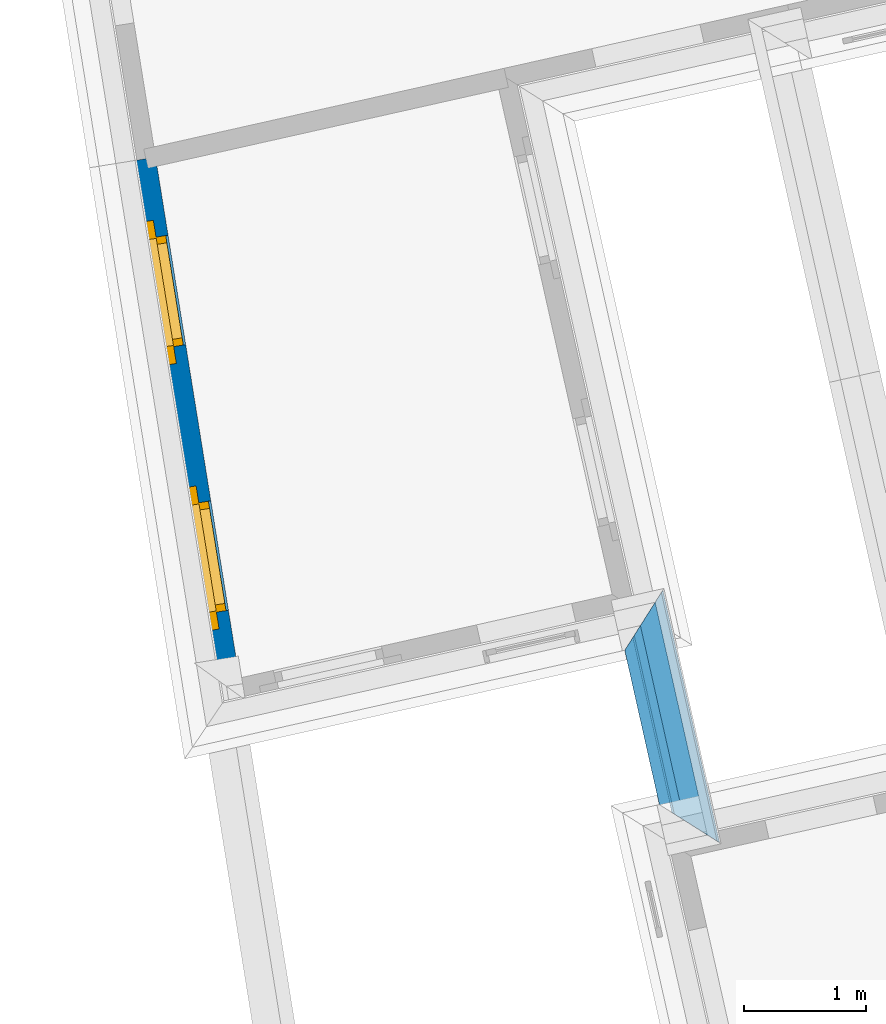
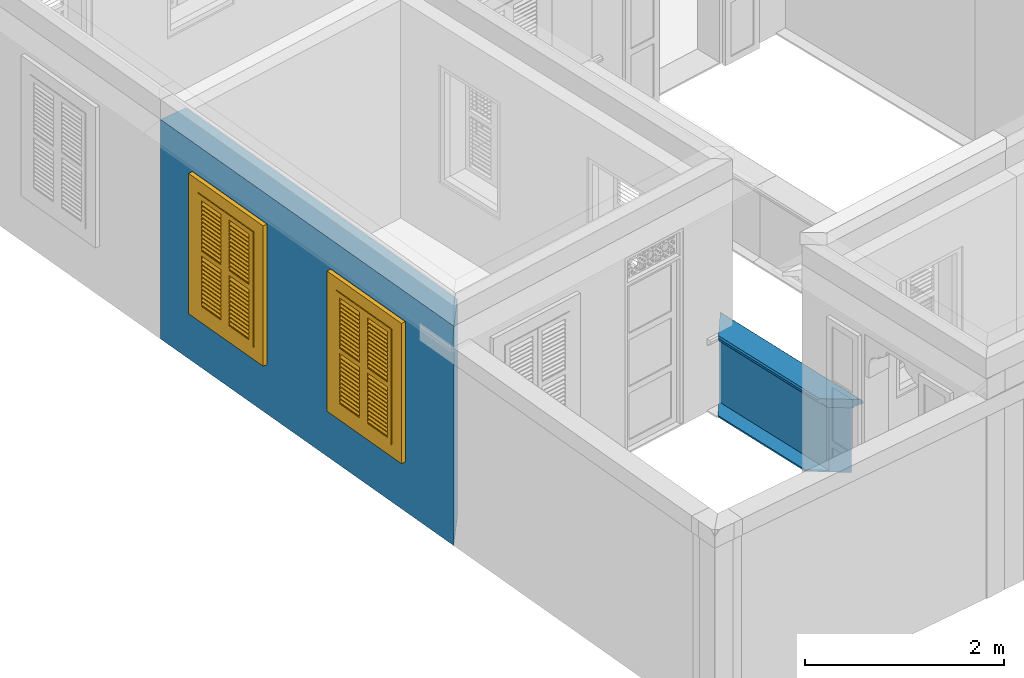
# One storey, part 4 of 15: 3 walls, 2 windows, 2 openings.
"""IFC4 building model written with IfcOpenShell, lengths in metres."""

from ifc_helpers import new_model, si_unit, frame, origin, origin_with_axes, place, context, subcontext, project, spatial, polyline, outline, extrude, clip, halfspace, faceted_brep, source, transform, mapped, material, layer, layer_set, layer_usage, material_profile, profile_set, profile_usage, type_object, type_shapes, element, fill, save


model = new_model("IFC4")

# Units and contexts
model_context = context("Model", 3, world=origin_with_axes())
body_context = subcontext(model_context, "Body", "Model", "MODEL_VIEW")
ifc_project = project(units=[si_unit("PLANEANGLEUNIT", "RADIAN"), si_unit("MASSUNIT", "GRAM", prefix="KILO"), si_unit("FORCEUNIT", "NEWTON", prefix="KILO"), si_unit("LENGTHUNIT", "METRE"), si_unit("AREAUNIT", "SQUARE_METRE"), si_unit("VOLUMEUNIT", "CUBIC_METRE")], contexts=[model_context, model_context])

# Site, building, storey
site_placement = place(None, origin_with_axes())
site = spatial("IfcSite", under=ifc_project, at=site_placement, Name="Site plot-10", CompositionType="ELEMENT")
building_placement = place(None, origin_with_axes())
building = spatial("IfcBuilding", under=site, at=building_placement, Name="Building plot-10", CompositionType="ELEMENT")
storey_placement = place(None, frame((0.0, 0.0, 2.7), z_axis=(0.0, 0.0, 1.0), x_axis=(1.0, 0.0, 0.0)))
storey = spatial("IfcBuildingStorey", under=building, at=storey_placement, Name="plot-10 1", CompositionType="ELEMENT", Elevation=2.7)

# Wall, openings, windows
ifc_material = material(Name="Masonry")
ifc_layer = layer(ifc_material, 0.33, ventilated=False)
ifc_layer_set = layer_set([ifc_layer], Name="exterior_0.08_0.25")
ifc_layer_usage = layer_usage(ifc_layer_set, "AXIS2", "POSITIVE", -0.25)
wall_type_1 = type_object("IfcWallType", Name="exterior_0.08_0.25", PredefinedType="SOLIDWALL", material=ifc_layer_set)
wall_1_placement = place(storey_placement, frame((-24.5040673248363, 16.5144987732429, 0.0), z_axis=(0.0, 0.0, 1.0), x_axis=(0.158841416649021, -0.98730410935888, 0.0)))
wall_1 = element("IfcWall", 1, at=wall_1_placement, inside=storey, type_object=wall_type_1, material=ifc_layer_usage, Name="exterior", context=body_context, shape_type="SweptSolid", body=[
    extrude(outline(polyline([(-1.22078763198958e-15, 0.08), (4.83905705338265e-15, -0.249999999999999), (4.68214450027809, -0.249999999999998), (4.33130563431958, 0.0799999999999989), (-1.22078763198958e-15, 0.08)])), origin_with_axes(), (0.0, 0.0, 1.0), 2.7),
])
opening_1_placement = place(wall_1_placement, frame((0.649089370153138, 0.0, 0.75)))
opening_1 = element("IfcOpeningElement", 2, at=opening_1_placement, cuts=wall_1, Name="My Opening", ObjectType="Opening", context=body_context, shape_type="SweptSolid", body=[
    extrude(outline(polyline([(0.0, -0.269999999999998), (0.91, -0.27), (0.91, 1.1), (2.22044604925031e-16, 1.1), (0.0, -0.269999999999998)])), origin_with_axes(), (0.0, 0.0, 1.0), 1.445),
])
opening_2_placement = place(wall_1_placement, frame((2.85726811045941, 0.0, 0.75)))
opening_2 = element("IfcOpeningElement", 3, at=opening_2_placement, cuts=wall_1, Name="My Opening", ObjectType="Opening", context=body_context, shape_type="SweptSolid", body=[
    extrude(outline(polyline([(0.0, -0.27), (0.91, -0.269999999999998), (0.910000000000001, 1.1), (4.44089209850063e-16, 1.1), (0.0, -0.27)])), origin_with_axes(), (0.0, 0.0, 1.0), 1.445),
])
window_type = type_object("IfcWindowType", Name="shuttered_shorter", PartitioningType="DOUBLE_PANEL_HORIZONTAL", PredefinedType="NOTDEFINED")
shared_shape = source(origin(), body_context, "Body", "Brep", [
    faceted_brep([(0.393, 0.0, 0.622), (0.074, 0.0, 0.622), (0.074, 0.0, 0.632), (0.393, 0.0, 0.632), (0.074, -0.04, 0.592), (0.393, -0.04, 0.592), (0.393, -0.04, 0.582), (0.074, -0.04, 0.582), (0.517, 0.0, 0.682), (0.836, 0.0, 0.682), (0.836, 0.0, 0.672), (0.517, 0.0, 0.672), (0.517, -0.04, 0.642), (0.836, -0.04, 0.642), (0.836, -0.04, 0.632), (0.517, -0.04, 0.632), (0.517, 0.0, 0.632), (0.836, 0.0, 0.632), (0.836, 0.0, 0.622), (0.517, 0.0, 0.622), (0.517, -0.04, 0.592), (0.836, -0.04, 0.592), (0.836, -0.04, 0.582), (0.517, -0.04, 0.582), (0.517, 0.0, 0.232), (0.836, 0.0, 0.232), (0.836, 0.0, 0.222), (0.517, 0.0, 0.222), (0.517, -0.04, 0.192), (0.836, -0.04, 0.192), (0.836, -0.04, 0.182), (0.517, -0.04, 0.182), (0.517, 0.0, 0.532), (0.836, 0.0, 0.532), (0.836, 0.0, 0.522), (0.517, 0.0, 0.522), (0.517, -0.04, 0.492), (0.836, -0.04, 0.492), (0.836, -0.04, 0.482), (0.517, -0.04, 0.482), (0.517, 0.0, 0.482), (0.836, 0.0, 0.482), (0.836, 0.0, 0.472), (0.517, 0.0, 0.472), (0.517, -0.04, 0.442), (0.836, -0.04, 0.442), (0.836, -0.04, 0.432), (0.517, -0.04, 0.432), (0.517, 0.0, 0.582), (0.836, 0.0, 0.582), (0.836, 0.0, 0.572), (0.517, 0.0, 0.572), (0.517, -0.04, 0.542), (0.836, -0.04, 0.542), (0.836, -0.04, 0.532), (0.517, -0.04, 0.532), (0.517, 0.0, 0.182), (0.836, 0.0, 0.182), (0.836, 0.0, 0.172), (0.517, 0.0, 0.172), (0.517, -0.04, 0.142), (0.836, -0.04, 0.142), (0.836, -0.04, 0.132), (0.517, -0.04, 0.132), (0.517, 0.0, 0.382), (0.836, 0.0, 0.382), (0.836, 0.0, 0.372), (0.517, 0.0, 0.372), (0.517, -0.04, 0.342), (0.836, -0.04, 0.342), (0.836, -0.04, 0.332), (0.517, -0.04, 0.332), (0.517, 0.0, 0.432), (0.836, 0.0, 0.432), (0.836, 0.0, 0.422), (0.517, 0.0, 0.422), (0.517, -0.04, 0.392), (0.836, -0.04, 0.392), (0.836, -0.04, 0.382), (0.517, -0.04, 0.382), (0.517, 0.0, 0.132), (0.836, 0.0, 0.132), (0.836, 0.0, 0.122), (0.517, 0.0, 0.122), (0.517, -0.04, 0.092), (0.836, -0.04, 0.092), (0.836, -0.04, 0.082), (0.517, -0.04, 0.082), (0.517, 0.0, 0.282), (0.836, 0.0, 0.282), (0.836, 0.0, 0.272), (0.517, 0.0, 0.272), (0.517, -0.04, 0.242), (0.836, -0.04, 0.242), (0.836, -0.04, 0.232), (0.517, -0.04, 0.232), (0.517, 0.0, 0.332), (0.836, 0.0, 0.332), (0.836, 0.0, 0.322), (0.517, 0.0, 0.322), (0.517, -0.04, 0.292), (0.836, -0.04, 0.292), (0.836, -0.04, 0.282), (0.517, -0.04, 0.282), (0.517, 0.0, 1.362667), (0.836, 0.0, 1.362667), (0.836, 0.0, 1.352667), (0.517, 0.0, 1.352667), (0.517, -0.04, 1.322667), (0.836, -0.04, 1.322667), (0.836, -0.04, 1.312667), (0.517, -0.04, 1.312667), (0.517, 0.0, 1.312667), (0.836, 0.0, 1.312667), (0.836, 0.0, 1.302667), (0.517, 0.0, 1.302667), (0.517, -0.04, 1.272667), (0.836, -0.04, 1.272667), (0.836, -0.04, 1.262667), (0.517, -0.04, 1.262667), (0.517, 0.0, 0.912667), (0.836, 0.0, 0.912667), (0.836, 0.0, 0.902667), (0.517, 0.0, 0.902667), (0.517, -0.04, 0.872667), (0.836, -0.04, 0.872667), (0.836, -0.04, 0.862667), (0.517, -0.04, 0.862667), (0.517, 0.0, 1.212667), (0.836, 0.0, 1.212667), (0.836, 0.0, 1.202667), (0.517, 0.0, 1.202667), (0.517, -0.04, 1.172667), (0.836, -0.04, 1.172667), (0.836, -0.04, 1.162667), (0.517, -0.04, 1.162667), (0.517, 0.0, 1.162667), (0.836, 0.0, 1.162667), (0.836, 0.0, 1.152667), (0.517, 0.0, 1.152667), (0.517, -0.04, 1.122667), (0.836, -0.04, 1.122667), (0.836, -0.04, 1.112667), (0.517, -0.04, 1.112667), (0.517, 0.0, 1.262667), (0.836, 0.0, 1.262667), (0.836, 0.0, 1.252667), (0.517, 0.0, 1.252667), (0.517, -0.04, 1.222667), (0.836, -0.04, 1.222667), (0.836, -0.04, 1.212667), (0.517, -0.04, 1.212667), (0.517, 0.0, 0.862667), (0.836, 0.0, 0.862667), (0.836, 0.0, 0.852667), (0.517, 0.0, 0.852667), (0.517, -0.04, 0.822667), (0.836, -0.04, 0.822667), (0.836, -0.04, 0.812667), (0.517, -0.04, 0.812667), (0.517, 0.0, 1.062667), (0.836, 0.0, 1.062667), (0.836, 0.0, 1.052667), (0.517, 0.0, 1.052667), (0.517, -0.04, 1.022667), (0.836, -0.04, 1.022667), (0.836, -0.04, 1.012667), (0.517, -0.04, 1.012667), (0.517, 0.0, 1.112667), (0.836, 0.0, 1.112667), (0.836, 0.0, 1.102667), (0.517, 0.0, 1.102667), (0.517, -0.04, 1.072667), (0.836, -0.04, 1.072667), (0.836, -0.04, 1.062667), (0.517, -0.04, 1.062667), (0.517, 0.0, 0.812667), (0.836, 0.0, 0.812667), (0.836, 0.0, 0.802667), (0.517, 0.0, 0.802667), (0.517, -0.04, 0.772667), (0.836, -0.04, 0.772667), (0.836, -0.04, 0.762667), (0.517, -0.04, 0.762667), (0.517, 0.0, 0.962667), (0.836, 0.0, 0.962667), (0.836, 0.0, 0.952667), (0.517, 0.0, 0.952667), (0.517, -0.04, 0.922667), (0.836, -0.04, 0.922667), (0.836, -0.04, 0.912667), (0.517, -0.04, 0.912667), (0.517, 0.0, 1.012667), (0.836, 0.0, 1.012667), (0.836, 0.0, 1.002667), (0.517, 0.0, 1.002667), (0.517, -0.04, 0.972667), (0.836, -0.04, 0.972667), (0.836, -0.04, 0.962667), (0.517, -0.04, 0.962667), (0.074, 0.0, 0.682), (0.393, 0.0, 0.682), (0.393, 0.0, 0.672), (0.074, 0.0, 0.672), (0.074, -0.04, 0.642), (0.393, -0.04, 0.642), (0.393, -0.04, 0.632), (0.074, -0.04, 0.632), (0.074, 0.0, 0.232), (0.393, 0.0, 0.232), (0.393, 0.0, 0.222), (0.074, 0.0, 0.222), (0.074, -0.04, 0.192), (0.393, -0.04, 0.192), (0.393, -0.04, 0.182), (0.074, -0.04, 0.182), (0.074, 0.0, 0.532), (0.393, 0.0, 0.532), (0.393, 0.0, 0.522), (0.074, 0.0, 0.522), (0.074, -0.04, 0.492), (0.393, -0.04, 0.492), (0.393, -0.04, 0.482), (0.074, -0.04, 0.482), (0.074, 0.0, 0.482), (0.393, 0.0, 0.482), (0.393, 0.0, 0.472), (0.074, 0.0, 0.472), (0.074, -0.04, 0.442), (0.393, -0.04, 0.442), (0.393, -0.04, 0.432), (0.074, -0.04, 0.432), (0.074, 0.0, 0.582), (0.393, 0.0, 0.582), (0.393, 0.0, 0.572), (0.074, 0.0, 0.572), (0.074, -0.04, 0.542), (0.393, -0.04, 0.542), (0.393, -0.04, 0.532), (0.074, -0.04, 0.532), (0.074, 0.0, 0.182), (0.393, 0.0, 0.182), (0.393, 0.0, 0.172), (0.074, 0.0, 0.172), (0.074, -0.04, 0.142), (0.393, -0.04, 0.142), (0.393, -0.04, 0.132), (0.074, -0.04, 0.132), (0.074, 0.0, 0.382), (0.393, 0.0, 0.382), (0.393, 0.0, 0.372), (0.074, 0.0, 0.372), (0.074, -0.04, 0.342), (0.393, -0.04, 0.342), (0.393, -0.04, 0.332), (0.074, -0.04, 0.332), (0.074, 0.0, 0.432), (0.393, 0.0, 0.432), (0.393, 0.0, 0.422), (0.074, 0.0, 0.422), (0.074, -0.04, 0.392), (0.393, -0.04, 0.392), (0.393, -0.04, 0.382), (0.074, -0.04, 0.382), (0.074, 0.0, 0.132), (0.393, 0.0, 0.132), (0.393, 0.0, 0.122), (0.074, 0.0, 0.122), (0.074, -0.04, 0.092), (0.393, -0.04, 0.092), (0.393, -0.04, 0.082), (0.074, -0.04, 0.082), (0.074, 0.0, 0.282), (0.393, 0.0, 0.282), (0.393, 0.0, 0.272), (0.074, 0.0, 0.272), (0.074, -0.04, 0.242), (0.393, -0.04, 0.242), (0.393, -0.04, 0.232), (0.074, -0.04, 0.232), (0.074, 0.0, 0.332), (0.393, 0.0, 0.332), (0.393, 0.0, 0.322), (0.074, 0.0, 0.322), (0.074, -0.04, 0.292), (0.393, -0.04, 0.292), (0.393, -0.04, 0.282), (0.074, -0.04, 0.282), (0.074, 0.0, 1.362667), (0.393, 0.0, 1.362667), (0.393, 0.0, 1.352667), (0.074, 0.0, 1.352667), (0.074, -0.04, 1.322667), (0.393, -0.04, 1.322667), (0.393, -0.04, 1.312667), (0.074, -0.04, 1.312667), (0.074, 0.0, 1.312667), (0.393, 0.0, 1.312667), (0.393, 0.0, 1.302667), (0.074, 0.0, 1.302667), (0.074, -0.04, 1.272667), (0.393, -0.04, 1.272667), (0.393, -0.04, 1.262667), (0.074, -0.04, 1.262667), (0.074, 0.0, 0.912667), (0.393, 0.0, 0.912667), (0.393, 0.0, 0.902667), (0.074, 0.0, 0.902667), (0.074, -0.04, 0.872667), (0.393, -0.04, 0.872667), (0.393, -0.04, 0.862667), (0.074, -0.04, 0.862667), (0.074, 0.0, 1.212667), (0.393, 0.0, 1.212667), (0.393, 0.0, 1.202667), (0.074, 0.0, 1.202667), (0.074, -0.04, 1.172667), (0.393, -0.04, 1.172667), (0.393, -0.04, 1.162667), (0.074, -0.04, 1.162667), (0.074, 0.0, 1.162667), (0.393, 0.0, 1.162667), (0.393, 0.0, 1.152667), (0.074, 0.0, 1.152667), (0.074, -0.04, 1.122667), (0.393, -0.04, 1.122667), (0.393, -0.04, 1.112667), (0.074, -0.04, 1.112667), (0.074, 0.0, 1.262667), (0.393, 0.0, 1.262667), (0.393, 0.0, 1.252667), (0.074, 0.0, 1.252667), (0.074, -0.04, 1.222667), (0.393, -0.04, 1.222667), (0.393, -0.04, 1.212667), (0.074, -0.04, 1.212667), (0.074, 0.0, 0.862667), (0.393, 0.0, 0.862667), (0.393, 0.0, 0.852667), (0.074, 0.0, 0.852667), (0.074, -0.04, 0.822667), (0.393, -0.04, 0.822667), (0.393, -0.04, 0.812667), (0.074, -0.04, 0.812667), (0.074, 0.0, 1.062667), (0.393, 0.0, 1.062667), (0.393, 0.0, 1.052667), (0.074, 0.0, 1.052667), (0.074, -0.04, 1.022667), (0.393, -0.04, 1.022667), (0.393, -0.04, 1.012667), (0.074, -0.04, 1.012667), (0.074, 0.0, 1.112667), (0.393, 0.0, 1.112667), (0.393, 0.0, 1.102667), (0.074, 0.0, 1.102667), (0.074, -0.04, 1.072667), (0.393, -0.04, 1.072667), (0.393, -0.04, 1.062667), (0.074, -0.04, 1.062667), (0.074, 0.0, 0.812667), (0.393, 0.0, 0.812667), (0.393, 0.0, 0.802667), (0.074, 0.0, 0.802667), (0.074, -0.04, 0.772667), (0.393, -0.04, 0.772667), (0.393, -0.04, 0.762667), (0.074, -0.04, 0.762667), (0.074, 0.0, 0.962667), (0.393, 0.0, 0.962667), (0.393, 0.0, 0.952667), (0.074, 0.0, 0.952667), (0.074, -0.04, 0.922667), (0.393, -0.04, 0.922667), (0.393, -0.04, 0.912667), (0.074, -0.04, 0.912667), (0.074, 0.0, 1.012667), (0.393, 0.0, 1.012667), (0.393, 0.0, 1.002667), (0.074, 0.0, 1.002667), (0.074, -0.04, 0.972667), (0.393, -0.04, 0.972667), (0.393, -0.04, 0.962667), (0.074, -0.04, 0.962667), (0.517, -0.04, 0.072), (0.457, -0.04, 0.012), (0.896, -0.04, 0.012), (0.836, -0.04, 0.072), (0.457, -0.04, 0.692667), (0.517, -0.04, 0.692667), (0.457, 0.0, 0.012), (0.896, 0.0, 0.012), (0.836, -0.04, 0.692667), (0.896, -0.04, 0.692667), (0.836, 0.0, 0.072), (0.517, 0.0, 0.072), (0.457, 0.0, 0.692667), (0.517, 0.0, 0.692667), (0.517, -0.04, 0.752666), (0.457, -0.04, 0.752666), (0.896, 0.0, 0.692667), (0.836, 0.0, 0.692667), (0.836, -0.04, 0.752666), (0.896, -0.04, 0.752666), (0.457, 0.0, 0.752666), (0.457, -0.04, 1.433333), (0.517, -0.04, 1.373333), (0.896, 0.0, 0.752666), (0.836, -0.04, 1.373333), (0.896, -0.04, 1.433333), (0.457, 0.0, 1.433333), (0.517, 0.0, 0.752666), (0.836, 0.0, 0.752666), (0.517, 0.0, 1.373333), (0.896, 0.0, 1.433333), (0.836, 0.0, 1.373333), (0.074, -0.04, 0.072), (0.014, -0.04, 0.012), (0.453, -0.04, 0.012), (0.393, -0.04, 0.072), (0.014, -0.04, 0.692667), (0.074, -0.04, 0.692667), (0.014, 0.0, 0.012), (0.453, 0.0, 0.012), (0.393, -0.04, 0.692667), (0.453, -0.04, 0.692667), (0.393, 0.0, 0.072), (0.074, 0.0, 0.072), (0.014, 0.0, 0.692667), (0.074, 0.0, 0.692667), (0.074, -0.04, 0.752666), (0.014, -0.04, 0.752666), (0.453, 0.0, 0.692667), (0.393, 0.0, 0.692667), (0.393, -0.04, 0.752666), (0.453, -0.04, 0.752666), (0.014, 0.0, 0.752666), (0.014, -0.04, 1.433333), (0.074, -0.04, 1.373333), (0.453, 0.0, 0.752666), (0.393, -0.04, 1.373333), (0.453, -0.04, 1.433333), (0.014, 0.0, 1.433333), (0.074, 0.0, 0.752666), (0.393, 0.0, 0.752666), (0.074, 0.0, 1.373333), (0.453, 0.0, 1.433333), (0.393, 0.0, 1.373333), (0.0, 0.33, 1.445), (0.91, 0.33, 1.445), (0.85, 0.33, 1.385), (0.06, 0.33, 1.385), (0.91, 0.25, 1.445), (0.0, 0.25, 1.445), (0.91, 0.25, 1.445), (0.85, 0.33, 0.06), (0.91, 0.33, 0.0), (0.85, 0.25, 1.385), (0.06, 0.25, 1.385), (0.0, 0.33, 0.0), (0.06, 0.33, 0.06), (0.0, 0.25, 0.0), (0.91, 0.25, 0.0), (0.85, 0.25, 0.06), (0.06, 0.25, 0.06), (1.05, 0.25, 1.585), (-0.14, 0.25, 1.585), (-0.14, -0.03, 1.585), (1.05, -0.03, 1.585), (0.9, -0.03, 1.435), (0.01, -0.03, 1.435), (0.01, 0.25, 1.435), (0.9, 0.25, 1.435), (0.9, 0.25, 0.01), (0.9, -0.03, 0.01), (1.05, -0.03, -0.14), (1.05, 0.25, -0.14), (0.01, -0.03, 0.01), (0.01, 0.25, 0.01), (-0.14, -0.03, -0.14), (-0.14, 0.25, -0.14)], [[[0, 1, 2, 3]], [[4, 5, 3, 2]], [[5, 6, 0, 3]], [[1, 0, 6, 7]], [[2, 1, 7, 4]], [[5, 4, 7, 6]], [[8, 9, 10, 11]], [[12, 13, 9, 8]], [[13, 14, 10, 9]], [[14, 15, 11, 10]], [[15, 12, 8, 11]], [[13, 12, 15, 14]], [[16, 17, 18, 19]], [[20, 21, 17, 16]], [[21, 22, 18, 17]], [[22, 23, 19, 18]], [[23, 20, 16, 19]], [[21, 20, 23, 22]], [[24, 25, 26, 27]], [[28, 29, 25, 24]], [[29, 30, 26, 25]], [[30, 31, 27, 26]], [[31, 28, 24, 27]], [[29, 28, 31, 30]], [[32, 33, 34, 35]], [[36, 37, 33, 32]], [[37, 38, 34, 33]], [[38, 39, 35, 34]], [[39, 36, 32, 35]], [[37, 36, 39, 38]], [[40, 41, 42, 43]], [[44, 45, 41, 40]], [[45, 46, 42, 41]], [[46, 47, 43, 42]], [[47, 44, 40, 43]], [[45, 44, 47, 46]], [[48, 49, 50, 51]], [[52, 53, 49, 48]], [[53, 54, 50, 49]], [[54, 55, 51, 50]], [[55, 52, 48, 51]], [[53, 52, 55, 54]], [[56, 57, 58, 59]], [[60, 61, 57, 56]], [[61, 62, 58, 57]], [[62, 63, 59, 58]], [[63, 60, 56, 59]], [[61, 60, 63, 62]], [[64, 65, 66, 67]], [[68, 69, 65, 64]], [[69, 70, 66, 65]], [[70, 71, 67, 66]], [[71, 68, 64, 67]], [[69, 68, 71, 70]], [[72, 73, 74, 75]], [[76, 77, 73, 72]], [[77, 78, 74, 73]], [[78, 79, 75, 74]], [[79, 76, 72, 75]], [[77, 76, 79, 78]], [[80, 81, 82, 83]], [[84, 85, 81, 80]], [[85, 86, 82, 81]], [[86, 87, 83, 82]], [[87, 84, 80, 83]], [[85, 84, 87, 86]], [[88, 89, 90, 91]], [[92, 93, 89, 88]], [[93, 94, 90, 89]], [[94, 95, 91, 90]], [[95, 92, 88, 91]], [[93, 92, 95, 94]], [[96, 97, 98, 99]], [[100, 101, 97, 96]], [[101, 102, 98, 97]], [[102, 103, 99, 98]], [[103, 100, 96, 99]], [[101, 100, 103, 102]], [[104, 105, 106, 107]], [[108, 109, 105, 104]], [[109, 110, 106, 105]], [[110, 111, 107, 106]], [[111, 108, 104, 107]], [[109, 108, 111, 110]], [[112, 113, 114, 115]], [[116, 117, 113, 112]], [[117, 118, 114, 113]], [[118, 119, 115, 114]], [[119, 116, 112, 115]], [[117, 116, 119, 118]], [[120, 121, 122, 123]], [[124, 125, 121, 120]], [[125, 126, 122, 121]], [[126, 127, 123, 122]], [[127, 124, 120, 123]], [[125, 124, 127, 126]], [[128, 129, 130, 131]], [[132, 133, 129, 128]], [[133, 134, 130, 129]], [[134, 135, 131, 130]], [[135, 132, 128, 131]], [[133, 132, 135, 134]], [[136, 137, 138, 139]], [[140, 141, 137, 136]], [[141, 142, 138, 137]], [[142, 143, 139, 138]], [[139, 143, 140, 136]], [[141, 140, 143, 142]], [[144, 145, 146, 147]], [[148, 149, 145, 144]], [[149, 150, 146, 145]], [[150, 151, 147, 146]], [[151, 148, 144, 147]], [[149, 148, 151, 150]], [[152, 153, 154, 155]], [[156, 157, 153, 152]], [[157, 158, 154, 153]], [[158, 159, 155, 154]], [[159, 156, 152, 155]], [[157, 156, 159, 158]], [[160, 161, 162, 163]], [[164, 165, 161, 160]], [[165, 166, 162, 161]], [[166, 167, 163, 162]], [[167, 164, 160, 163]], [[165, 164, 167, 166]], [[168, 169, 170, 171]], [[172, 173, 169, 168]], [[173, 174, 170, 169]], [[174, 175, 171, 170]], [[175, 172, 168, 171]], [[173, 172, 175, 174]], [[176, 177, 178, 179]], [[180, 181, 177, 176]], [[181, 182, 178, 177]], [[182, 183, 179, 178]], [[183, 180, 176, 179]], [[181, 180, 183, 182]], [[184, 185, 186, 187]], [[188, 189, 185, 184]], [[189, 190, 186, 185]], [[190, 191, 187, 186]], [[191, 188, 184, 187]], [[189, 188, 191, 190]], [[192, 193, 194, 195]], [[196, 197, 193, 192]], [[197, 198, 194, 193]], [[198, 199, 195, 194]], [[199, 196, 192, 195]], [[197, 196, 199, 198]], [[200, 201, 202, 203]], [[204, 205, 201, 200]], [[205, 206, 202, 201]], [[206, 207, 203, 202]], [[207, 204, 200, 203]], [[205, 204, 207, 206]], [[208, 209, 210, 211]], [[212, 213, 209, 208]], [[213, 214, 210, 209]], [[214, 215, 211, 210]], [[215, 212, 208, 211]], [[213, 212, 215, 214]], [[216, 217, 218, 219]], [[220, 221, 217, 216]], [[221, 222, 218, 217]], [[222, 223, 219, 218]], [[223, 220, 216, 219]], [[221, 220, 223, 222]], [[224, 225, 226, 227]], [[228, 229, 225, 224]], [[229, 230, 226, 225]], [[230, 231, 227, 226]], [[231, 228, 224, 227]], [[229, 228, 231, 230]], [[232, 233, 234, 235]], [[236, 237, 233, 232]], [[237, 238, 234, 233]], [[238, 239, 235, 234]], [[239, 236, 232, 235]], [[237, 236, 239, 238]], [[240, 241, 242, 243]], [[244, 245, 241, 240]], [[245, 246, 242, 241]], [[246, 247, 243, 242]], [[247, 244, 240, 243]], [[245, 244, 247, 246]], [[248, 249, 250, 251]], [[252, 253, 249, 248]], [[253, 254, 250, 249]], [[254, 255, 251, 250]], [[255, 252, 248, 251]], [[253, 252, 255, 254]], [[256, 257, 258, 259]], [[260, 261, 257, 256]], [[261, 262, 258, 257]], [[262, 263, 259, 258]], [[263, 260, 256, 259]], [[261, 260, 263, 262]], [[264, 265, 266, 267]], [[268, 269, 265, 264]], [[269, 270, 266, 265]], [[270, 271, 267, 266]], [[271, 268, 264, 267]], [[269, 268, 271, 270]], [[272, 273, 274, 275]], [[276, 277, 273, 272]], [[277, 278, 274, 273]], [[278, 279, 275, 274]], [[279, 276, 272, 275]], [[277, 276, 279, 278]], [[280, 281, 282, 283]], [[284, 285, 281, 280]], [[285, 286, 282, 281]], [[286, 287, 283, 282]], [[287, 284, 280, 283]], [[285, 284, 287, 286]], [[288, 289, 290, 291]], [[292, 293, 289, 288]], [[293, 294, 290, 289]], [[294, 295, 291, 290]], [[295, 292, 288, 291]], [[293, 292, 295, 294]], [[296, 297, 298, 299]], [[300, 301, 297, 296]], [[301, 302, 298, 297]], [[302, 303, 299, 298]], [[303, 300, 296, 299]], [[301, 300, 303, 302]], [[304, 305, 306, 307]], [[308, 309, 305, 304]], [[309, 310, 306, 305]], [[310, 311, 307, 306]], [[311, 308, 304, 307]], [[309, 308, 311, 310]], [[312, 313, 314, 315]], [[316, 317, 313, 312]], [[317, 318, 314, 313]], [[318, 319, 315, 314]], [[319, 316, 312, 315]], [[317, 316, 319, 318]], [[320, 321, 322, 323]], [[324, 325, 321, 320]], [[325, 326, 322, 321]], [[326, 327, 323, 322]], [[327, 324, 320, 323]], [[325, 324, 327, 326]], [[328, 329, 330, 331]], [[332, 333, 329, 328]], [[333, 334, 330, 329]], [[334, 335, 331, 330]], [[335, 332, 328, 331]], [[333, 332, 335, 334]], [[336, 337, 338, 339]], [[340, 341, 337, 336]], [[341, 342, 338, 337]], [[342, 343, 339, 338]], [[343, 340, 336, 339]], [[341, 340, 343, 342]], [[344, 345, 346, 347]], [[348, 349, 345, 344]], [[349, 350, 346, 345]], [[350, 351, 347, 346]], [[351, 348, 344, 347]], [[349, 348, 351, 350]], [[352, 353, 354, 355]], [[356, 357, 353, 352]], [[357, 358, 354, 353]], [[358, 359, 355, 354]], [[359, 356, 352, 355]], [[357, 356, 359, 358]], [[360, 361, 362, 363]], [[364, 365, 361, 360]], [[365, 366, 362, 361]], [[366, 367, 363, 362]], [[367, 364, 360, 363]], [[365, 364, 367, 366]], [[368, 369, 370, 371]], [[372, 373, 369, 368]], [[373, 374, 370, 369]], [[374, 375, 371, 370]], [[375, 372, 368, 371]], [[373, 372, 375, 374]], [[376, 377, 378, 379]], [[380, 381, 377, 376]], [[381, 382, 378, 377]], [[382, 383, 379, 378]], [[383, 380, 376, 379]], [[381, 380, 383, 382]], [[384, 385, 386, 387]], [[388, 385, 384, 389]], [[390, 391, 386, 385]], [[392, 387, 386, 393]], [[384, 387, 394, 395]], [[390, 385, 388, 396]], [[389, 384, 395, 397]], [[389, 398, 399, 388]], [[390, 395, 394, 391]], [[400, 393, 386, 391]], [[387, 392, 401, 394]], [[402, 392, 393, 403]], [[396, 388, 399, 404]], [[390, 396, 397, 395]], [[392, 389, 397, 401]], [[398, 389, 392, 402]], [[405, 399, 398, 406]], [[394, 401, 400, 391]], [[407, 403, 393, 400]], [[408, 402, 403, 409]], [[404, 399, 405, 410]], [[411, 397, 396, 404]], [[397, 411, 412, 401]], [[398, 402, 412, 411]], [[406, 398, 411, 413]], [[405, 406, 408, 409]], [[401, 412, 407, 400]], [[414, 409, 403, 407]], [[402, 408, 415, 412]], [[405, 409, 414, 410]], [[404, 410, 413, 411]], [[408, 406, 413, 415]], [[412, 415, 414, 407]], [[413, 410, 414, 415]], [[416, 417, 418, 419]], [[420, 417, 416, 421]], [[422, 423, 418, 417]], [[424, 419, 418, 425]], [[416, 419, 426, 427]], [[422, 417, 420, 428]], [[421, 416, 427, 429]], [[421, 430, 431, 420]], [[422, 427, 426, 423]], [[432, 425, 418, 423]], [[419, 424, 433, 426]], [[434, 424, 425, 435]], [[428, 420, 431, 436]], [[422, 428, 429, 427]], [[424, 421, 429, 433]], [[430, 421, 424, 434]], [[437, 431, 430, 438]], [[426, 433, 432, 423]], [[439, 435, 425, 432]], [[440, 434, 435, 441]], [[436, 431, 437, 442]], [[443, 429, 428, 436]], [[429, 443, 444, 433]], [[430, 434, 444, 443]], [[438, 430, 443, 445]], [[437, 438, 440, 441]], [[433, 444, 439, 432]], [[446, 441, 435, 439]], [[434, 440, 447, 444]], [[437, 441, 446, 442]], [[436, 442, 445, 443]], [[440, 438, 445, 447]], [[444, 447, 446, 439]], [[445, 442, 446, 447]], [[448, 449, 450, 451]], [[452, 449, 448]], [[448, 453, 454]], [[448, 454, 452]], [[455, 450, 449, 456]], [[451, 450, 457, 458]], [[459, 448, 451, 460]], [[448, 459, 461, 453]], [[454, 453, 458, 457]], [[462, 452, 454]], [[454, 457, 463]], [[454, 463, 462]], [[456, 449, 452, 462]], [[450, 455, 463, 457]], [[456, 459, 460, 455]], [[460, 451, 458, 464]], [[459, 456, 462, 461]], [[464, 458, 453, 461]], [[461, 462, 463, 464]], [[455, 460, 464, 463]], [[465, 466, 467, 468]], [[469, 470, 471, 472]], [[473, 474, 469, 472]], [[465, 468, 475, 476]], [[470, 477, 478, 471]], [[474, 473, 478, 477]], [[474, 477, 479, 475]], [[470, 467, 479, 477]], [[470, 469, 468, 467]], [[474, 475, 468, 469]], [[471, 478, 480, 466]], [[473, 472, 465, 476]], [[473, 476, 480, 478]], [[466, 465, 472, 471]], [[480, 476, 475, 479]], [[480, 479, 467, 466]]]),
])
type_shapes(window_type, [shared_shape])
window_1_placement = place(storey_placement, frame((-24.6675371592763, 15.8307629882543, 0.75), z_axis=(0.0, 0.0, 1.0), x_axis=(0.144545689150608, -0.898446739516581, 0.0)))
window_1 = element("IfcWindow", 4, at=window_1_placement, inside=storey, type_object=window_type, Name="bedroom outside window", OverallHeight=1.445, OverallWidth=0.91, context=body_context, shape_type="MappedRepresentation", body=[
    mapped(shared_shape, transform((0.0, 0.0, 0.0), scale=1.0)),
])
fill(opening_1, window_1)
window_2_placement = place(storey_placement, frame((-24.3167869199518, 13.650619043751, 0.75), z_axis=(0.0, 0.0, 1.0), x_axis=(0.144545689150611, -0.898446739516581, 0.0)))
window_2 = element("IfcWindow", 5, at=window_2_placement, inside=storey, type_object=window_type, Name="bedroom outside window", OverallHeight=1.445, OverallWidth=0.91, context=body_context, shape_type="MappedRepresentation", body=[
    mapped(shared_shape, transform((0.0, 0.0, 0.0), scale=1.0)),
])
fill(opening_2, window_2)

# Walls
ifc_material_profile_1 = material_profile(None, outline(polyline([(0.25, 0.0), (0.25, 0.795), (0.09, 0.795), (0.09, 0.02), (-0.08, 0.02), (-0.08, 0.0), (0.25, 0.0)])))
ifc_profile_set_1 = profile_set([ifc_material_profile_1])
ifc_profile_usage_1 = profile_usage(ifc_profile_set_1)
wall_type_2 = type_object("IfcWallType", Name="parapet internal_0", PredefinedType="PARAPET", material=ifc_profile_set_1)
wall_2_placement = place(storey_placement, frame((-20.7319365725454, 13.5503178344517, 0.0), z_axis=(0.218925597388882, -0.975741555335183, 0.0), x_axis=(0.975741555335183, 0.218925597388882, 0.0)))
element("IfcWall", 6, at=wall_2_placement, inside=storey, type_object=wall_type_2, material=ifc_profile_usage_1, Name="parapet internal_0", context=body_context, shape_type="Clipping", body=[
    clip(clip(extrude(outline(polyline([(0.25, 0.0), (0.25, 0.795), (0.09, 0.795), (0.09, 0.02), (-0.08, 0.02), (-0.08, 0.0), (0.25, 0.0)])), origin_with_axes(), (0.0, 0.0, 1.0), 3.45804371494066), halfspace(frame((0.0, 0.0, 2.45804371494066), z_axis=(0.707106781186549, 0.0, -0.707106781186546), x_axis=(0.0, 1.0, 0.0)), True)), halfspace(frame((0.0, 0.0, 1.0), z_axis=(-0.707106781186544, 0.0, -0.707106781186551), x_axis=(0.0, 1.0, 0.0)), False)),
])
ifc_material_profile_2 = material_profile(None, outline(polyline([(0.265, 0.795), (0.268, 0.807), (0.274, 0.816), (0.283, 0.822), (0.295, 0.825), (0.295, 0.84), (0.305, 0.84), (0.317, 0.842), (0.326, 0.849), (0.333, 0.858), (0.335, 0.87), (0.333, 0.882), (0.326, 0.891), (0.317, 0.898), (0.305, 0.9), (0.035, 0.9), (0.023, 0.898), (0.014, 0.891), (0.007, 0.882), (0.005, 0.87), (0.007, 0.858), (0.014, 0.849), (0.023, 0.842), (0.035, 0.84), (0.045, 0.84), (0.045, 0.825), (0.057, 0.822), (0.066, 0.816), (0.072, 0.807), (0.075, 0.795), (0.265, 0.795)])))
ifc_profile_set_2 = profile_set([ifc_material_profile_2])
ifc_profile_usage_2 = profile_usage(ifc_profile_set_2)
wall_type_3 = type_object("IfcWallType", Name="parapet internal_1", PredefinedType="PARAPET", material=ifc_profile_set_2)
wall_3_placement = place(storey_placement, frame((-20.7319365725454, 13.5503178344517, 0.0), z_axis=(0.218925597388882, -0.975741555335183, 0.0), x_axis=(0.975741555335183, 0.218925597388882, 0.0)))
element("IfcWall", 7, at=wall_3_placement, inside=storey, type_object=wall_type_3, material=ifc_profile_usage_2, Name="parapet internal_1", context=body_context, shape_type="Clipping", body=[
    clip(clip(extrude(outline(polyline([(0.265, 0.795), (0.268, 0.807), (0.274, 0.816), (0.283, 0.822), (0.295, 0.825), (0.295, 0.84), (0.305, 0.84), (0.317, 0.842), (0.326, 0.849), (0.333, 0.858), (0.335, 0.87), (0.333, 0.882), (0.326, 0.891), (0.317, 0.898), (0.305, 0.9), (0.035, 0.9), (0.023, 0.898), (0.014, 0.891), (0.007, 0.882), (0.005, 0.87), (0.007, 0.858), (0.014, 0.849), (0.023, 0.842), (0.035, 0.84), (0.045, 0.84), (0.045, 0.825), (0.057, 0.822), (0.066, 0.816), (0.072, 0.807), (0.075, 0.795), (0.265, 0.795)])), origin_with_axes(), (0.0, 0.0, 1.0), 3.45804371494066), halfspace(frame((0.0, 0.0, 2.45804371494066), z_axis=(0.707106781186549, 0.0, -0.707106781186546), x_axis=(0.0, 1.0, 0.0)), True)), halfspace(frame((0.0, 0.0, 1.0), z_axis=(-0.707106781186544, 0.0, -0.707106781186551), x_axis=(0.0, 1.0, 0.0)), False)),
])

save(model, "model.ifc")
